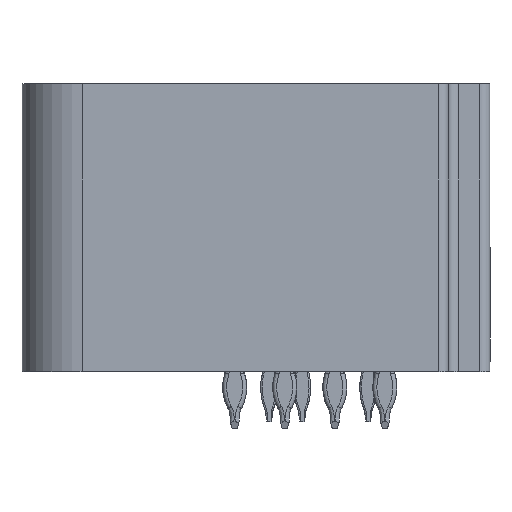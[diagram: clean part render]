
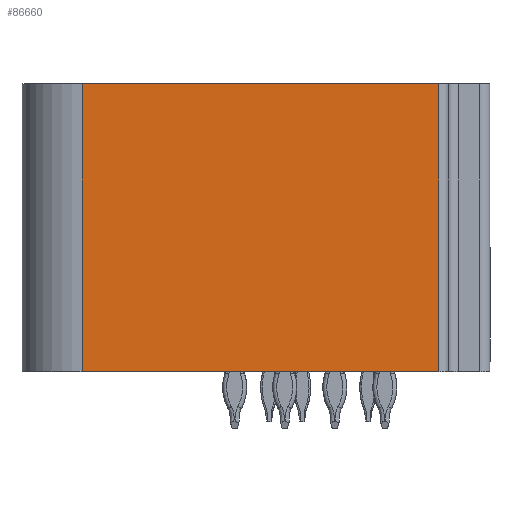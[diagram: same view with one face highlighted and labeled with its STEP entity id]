
A CAD part, left-side view. The second image highlights one B-rep face of the part: STEP entity #86660.
In plain terms, the highlighted planar face has unit normal (-1, 0, 0).
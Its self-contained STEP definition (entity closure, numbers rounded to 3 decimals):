
#2985 = AXIS2_PLACEMENT_3D ( 'NONE', #61419, #61421, #61422 ) ;
#7084 = CARTESIAN_POINT ( 'NONE',  ( -20.029, -4.633, 8.329 ) ) ;
#7254 = CARTESIAN_POINT ( 'NONE',  ( -20.029, 13.177, 8.329 ) ) ;
#10367 = CARTESIAN_POINT ( 'NONE',  ( -20.029, 13.177, -6.051 ) ) ;
#10487 = CARTESIAN_POINT ( 'NONE',  ( -20.029, -4.633, -6.051 ) ) ;
#24977 = EDGE_LOOP ( 'NONE', ( #31365, #31366, #31367, #31368 ) ) ;
#25850 = VERTEX_POINT ( 'NONE', #10367 ) ;
#26012 = VERTEX_POINT ( 'NONE', #10487 ) ;
#26388 = VERTEX_POINT ( 'NONE', #7084 ) ;
#26670 = VERTEX_POINT ( 'NONE', #7254 ) ;
#31365 = ORIENTED_EDGE ( 'NONE', *, *, #68153, .F. ) ;
#31366 = ORIENTED_EDGE ( 'NONE', *, *, #68146, .F. ) ;
#31367 = ORIENTED_EDGE ( 'NONE', *, *, #68143, .F. ) ;
#31368 = ORIENTED_EDGE ( 'NONE', *, *, #68159, .F. ) ;
#61402 = FACE_OUTER_BOUND ( 'NONE', #24977, .T. ) ;
#61416 = PLANE ( 'NONE',  #2985 ) ;
#61419 = CARTESIAN_POINT ( 'NONE',  ( -20.029, 12.621, -6.051 ) ) ;
#61421 = DIRECTION ( 'NONE',  ( 1., 0., 0. ) ) ;
#61422 = DIRECTION ( 'NONE',  ( 0., 1., 0. ) ) ;
#68143 = EDGE_CURVE ( 'NONE', #25850, #26670, #84790, .T. ) ;
#68146 = EDGE_CURVE ( 'NONE', #26670, #26388, #84801, .T. ) ;
#68153 = EDGE_CURVE ( 'NONE', #26388, #26012, #84795, .T. ) ;
#68159 = EDGE_CURVE ( 'NONE', #26012, #25850, #84804, .T. ) ;
#84790 = LINE ( 'NONE', #84791, #92395 ) ;
#84791 = CARTESIAN_POINT ( 'NONE',  ( -20.029, 13.177, -6.051 ) ) ;
#84795 = LINE ( 'NONE', #84796, #93061 ) ;
#84796 = CARTESIAN_POINT ( 'NONE',  ( -20.029, -4.633, -6.051 ) ) ;
#84800 = DIRECTION ( 'NONE',  ( 0., 0., 1. ) ) ;
#84801 = LINE ( 'NONE', #84802, #93142 ) ;
#84802 = CARTESIAN_POINT ( 'NONE',  ( -20.029, 12.621, 8.329 ) ) ;
#84803 = DIRECTION ( 'NONE',  ( 0., -1., 0. ) ) ;
#84804 = LINE ( 'NONE', #84805, #92368 ) ;
#84805 = CARTESIAN_POINT ( 'NONE',  ( -20.029, -7.193, -6.051 ) ) ;
#84809 = DIRECTION ( 'NONE',  ( 0., 0., -1. ) ) ;
#84815 = DIRECTION ( 'NONE',  ( 0., 1., 0. ) ) ;
#86660 = ADVANCED_FACE ( 'NONE', ( #61402 ), #61416, .F. ) ;
#92368 = VECTOR ( 'NONE', #84815, 1000. ) ;
#92395 = VECTOR ( 'NONE', #84800, 1000. ) ;
#93061 = VECTOR ( 'NONE', #84809, 1000. ) ;
#93142 = VECTOR ( 'NONE', #84803, 1000. ) ;
